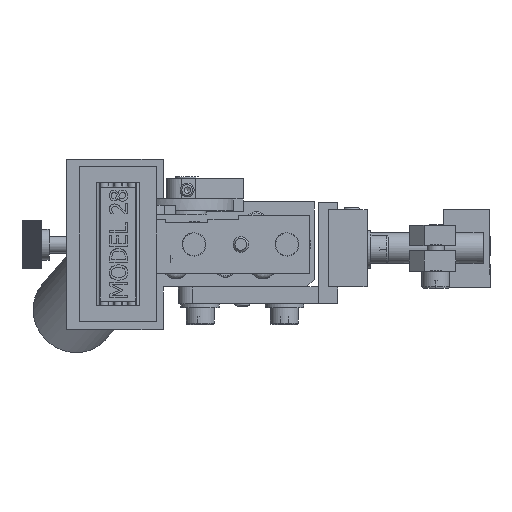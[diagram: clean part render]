
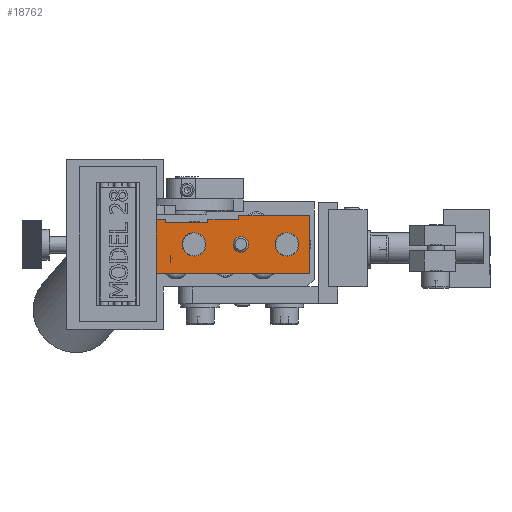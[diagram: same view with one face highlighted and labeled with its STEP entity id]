
A CAD part, front view. The second image highlights one B-rep face of the part: STEP entity #18762.
In plain terms, the highlighted planar face has unit normal (0, -1, 0).
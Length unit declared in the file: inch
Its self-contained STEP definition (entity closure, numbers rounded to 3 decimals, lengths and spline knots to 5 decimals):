
#16191=CARTESIAN_POINT('',(-0.82157,-5.91031,-0.143));
#16192=VERTEX_POINT('',#16191);
#16215=CARTESIAN_POINT('',(-0.82157,-5.91031,-0.579));
#16216=VERTEX_POINT('',#16215);
#16223=CARTESIAN_POINT('',(-0.82157,-5.91031,-0.143));
#16224=DIRECTION('',(0.0,0.0,-1.0));
#16225=VECTOR('',#16224,0.436);
#16226=LINE('',#16223,#16225);
#16227=EDGE_CURVE('',#16192,#16216,#16226,.T.);
#16315=CARTESIAN_POINT('',(-0.62483,-5.91031,-0.143));
#16316=VERTEX_POINT('',#16315);
#16317=CARTESIAN_POINT('',(-0.62483,-5.91031,-0.143));
#16318=DIRECTION('',(-1.0,0.0,0.0));
#16319=VECTOR('',#16318,0.19674);
#16320=LINE('',#16317,#16319);
#16321=EDGE_CURVE('',#16316,#16192,#16320,.T.);
#16346=CARTESIAN_POINT('',(0.34758,-5.91031,-0.25));
#16347=VERTEX_POINT('',#16346);
#16348=CARTESIAN_POINT('',(0.45318,-5.91031,-0.343));
#16349=VERTEX_POINT('',#16348);
#16350=CARTESIAN_POINT('',(0.35943,-5.91031,-0.343));
#16351=DIRECTION('',(0.0,1.0,0.0));
#16352=DIRECTION('',(-1.0,0.0,0.0));
#16353=AXIS2_PLACEMENT_3D('',#16350,#16351,#16352);
#16354=CIRCLE('',#16353,0.09375);
#16355=EDGE_CURVE('',#16347,#16349,#16354,.T.);
#16357=CARTESIAN_POINT('',(0.34758,-5.91031,-0.436));
#16358=VERTEX_POINT('',#16357);
#16366=CARTESIAN_POINT('',(0.35943,-5.91031,-0.343));
#16367=DIRECTION('',(0.0,1.0,0.0));
#16368=DIRECTION('',(-1.0,0.0,0.0));
#16369=AXIS2_PLACEMENT_3D('',#16366,#16367,#16368);
#16370=CIRCLE('',#16369,0.09375);
#16371=EDGE_CURVE('',#16349,#16358,#16370,.T.);
#16391=CARTESIAN_POINT('',(0.54143,-5.91031,-0.579));
#16392=VERTEX_POINT('',#16391);
#16399=CARTESIAN_POINT('',(-0.82157,-5.91031,-0.579));
#16400=DIRECTION('',(1.0,0.0,0.0));
#16401=VECTOR('',#16400,1.363);
#16402=LINE('',#16399,#16401);
#16403=EDGE_CURVE('',#16216,#16392,#16402,.T.);
#17701=CARTESIAN_POINT('',(-0.40242,-5.91031,-0.436));
#17702=VERTEX_POINT('',#17701);
#17751=CARTESIAN_POINT('',(-0.40242,-5.91031,-0.25));
#17752=VERTEX_POINT('',#17751);
#17759=CARTESIAN_POINT('',(-0.48882,-5.91031,-0.343));
#17760=VERTEX_POINT('',#17759);
#17761=CARTESIAN_POINT('',(-0.39557,-5.91031,-0.343));
#17762=DIRECTION('',(0.0,1.0,0.0));
#17763=DIRECTION('',(-1.0,0.0,0.0));
#17764=AXIS2_PLACEMENT_3D('',#17761,#17762,#17763);
#17765=CIRCLE('',#17764,0.09325);
#17766=EDGE_CURVE('',#17760,#17752,#17765,.T.);
#17768=CARTESIAN_POINT('',(-0.39557,-5.91031,-0.343));
#17769=DIRECTION('',(0.0,1.0,0.0));
#17770=DIRECTION('',(-1.0,0.0,0.0));
#17771=AXIS2_PLACEMENT_3D('',#17768,#17769,#17770);
#17772=CIRCLE('',#17771,0.09325);
#17773=EDGE_CURVE('',#17702,#17760,#17772,.T.);
#17793=CARTESIAN_POINT('',(-0.62483,-5.91031,-0.168));
#17794=VERTEX_POINT('',#17793);
#17801=CARTESIAN_POINT('',(-0.28183,-5.91031,-0.168));
#17802=VERTEX_POINT('',#17801);
#17803=CARTESIAN_POINT('',(-0.28183,-5.91031,-0.168));
#17804=DIRECTION('',(-1.0,0.0,0.0));
#17805=VECTOR('',#17804,0.343);
#17806=LINE('',#17803,#17805);
#17807=EDGE_CURVE('',#17802,#17794,#17806,.T.);
#17832=CARTESIAN_POINT('',(-0.28183,-5.91031,-0.14286));
#17833=VERTEX_POINT('',#17832);
#17834=CARTESIAN_POINT('',(-0.28183,-5.91031,-0.14286));
#17835=DIRECTION('',(0.0,0.0,-1.0));
#17836=VECTOR('',#17835,0.02514);
#17837=LINE('',#17834,#17836);
#17838=EDGE_CURVE('',#17833,#17802,#17837,.T.);
#17863=CARTESIAN_POINT('',(-0.03157,-5.91031,-0.14286));
#17864=VERTEX_POINT('',#17863);
#17865=CARTESIAN_POINT('',(-0.03157,-5.91031,-0.14286));
#17866=DIRECTION('',(-1.0,0.0,0.0));
#17867=VECTOR('',#17866,0.25026);
#17868=LINE('',#17865,#17867);
#17869=EDGE_CURVE('',#17864,#17833,#17868,.T.);
#17894=CARTESIAN_POINT('',(-0.03157,-5.91031,-0.106));
#17895=VERTEX_POINT('',#17894);
#17896=CARTESIAN_POINT('',(-0.03157,-5.91031,-0.106));
#17897=DIRECTION('',(0.0,0.0,-1.0));
#17898=VECTOR('',#17897,0.03686);
#17899=LINE('',#17896,#17898);
#17900=EDGE_CURVE('',#17895,#17864,#17899,.T.);
#17923=CARTESIAN_POINT('',(-0.62483,-5.91031,-0.168));
#17924=DIRECTION('',(0.0,0.0,1.0));
#17925=VECTOR('',#17924,0.025);
#17926=LINE('',#17923,#17925);
#17927=EDGE_CURVE('',#17794,#16316,#17926,.T.);
#17939=CARTESIAN_POINT('',(0.54143,-5.91031,-0.106));
#17940=VERTEX_POINT('',#17939);
#17941=CARTESIAN_POINT('',(0.54143,-5.91031,-0.106));
#17942=DIRECTION('',(-1.0,0.0,0.0));
#17943=VECTOR('',#17942,0.573);
#17944=LINE('',#17941,#17943);
#17945=EDGE_CURVE('',#17940,#17895,#17944,.T.);
#18436=CARTESIAN_POINT('',(0.54143,-5.91031,-0.579));
#18437=DIRECTION('',(0.0,0.0,1.0));
#18438=VECTOR('',#18437,0.473);
#18439=LINE('',#18436,#18438);
#18440=EDGE_CURVE('',#16392,#17940,#18439,.T.);
#18523=CARTESIAN_POINT('',(-0.29682,-5.91031,-0.343));
#18524=VERTEX_POINT('',#18523);
#18525=CARTESIAN_POINT('',(-0.39057,-5.91031,-0.343));
#18526=DIRECTION('',(0.0,1.0,0.0));
#18527=DIRECTION('',(-1.0,0.0,0.0));
#18528=AXIS2_PLACEMENT_3D('',#18525,#18526,#18527);
#18529=CIRCLE('',#18528,0.09375);
#18530=EDGE_CURVE('',#18524,#17702,#18529,.T.);
#18532=CARTESIAN_POINT('',(-0.39057,-5.91031,-0.343));
#18533=DIRECTION('',(0.0,1.0,0.0));
#18534=DIRECTION('',(-1.0,0.0,0.0));
#18535=AXIS2_PLACEMENT_3D('',#18532,#18533,#18534);
#18536=CIRCLE('',#18535,0.09375);
#18537=EDGE_CURVE('',#17752,#18524,#18536,.T.);
#18689=CARTESIAN_POINT('',(0.26118,-5.91031,-0.343));
#18690=VERTEX_POINT('',#18689);
#18691=CARTESIAN_POINT('',(0.35443,-5.91031,-0.343));
#18692=DIRECTION('',(0.0,1.0,0.0));
#18693=DIRECTION('',(-1.0,0.0,0.0));
#18694=AXIS2_PLACEMENT_3D('',#18691,#18692,#18693);
#18695=CIRCLE('',#18694,0.09325);
#18696=EDGE_CURVE('',#18690,#16347,#18695,.T.);
#18698=CARTESIAN_POINT('',(0.35443,-5.91031,-0.343));
#18699=DIRECTION('',(0.0,1.0,0.0));
#18700=DIRECTION('',(-1.0,0.0,0.0));
#18701=AXIS2_PLACEMENT_3D('',#18698,#18699,#18700);
#18702=CIRCLE('',#18701,0.09325);
#18703=EDGE_CURVE('',#16358,#18690,#18702,.T.);
#18722=CARTESIAN_POINT('',(0.54143,-5.91031,-0.579));
#18723=DIRECTION('',(0.0,-1.0,0.0));
#18724=DIRECTION('',(0.0,0.0,-1.0));
#18725=AXIS2_PLACEMENT_3D('',#18722,#18723,#18724);
#18726=PLANE('',#18725);
#18727=ORIENTED_EDGE('',*,*,#16227,.T.);
#18728=ORIENTED_EDGE('',*,*,#16403,.T.);
#18729=ORIENTED_EDGE('',*,*,#18440,.T.);
#18730=ORIENTED_EDGE('',*,*,#17945,.T.);
#18731=ORIENTED_EDGE('',*,*,#17900,.T.);
#18732=ORIENTED_EDGE('',*,*,#17869,.T.);
#18733=ORIENTED_EDGE('',*,*,#17838,.T.);
#18734=ORIENTED_EDGE('',*,*,#17807,.T.);
#18735=ORIENTED_EDGE('',*,*,#17927,.T.);
#18736=ORIENTED_EDGE('',*,*,#16321,.T.);
#18737=EDGE_LOOP('',(#18727,#18728,#18729,#18730,#18731,#18732,#18733,#18734,#18735,#18736));
#18738=FACE_OUTER_BOUND('',#18737,.T.);
#18739=CARTESIAN_POINT('',(-0.01557,-5.91031,-0.2805));
#18740=VERTEX_POINT('',#18739);
#18741=CARTESIAN_POINT('',(-0.01557,-5.91031,-0.343));
#18742=DIRECTION('',(0.0,1.0,0.0));
#18743=DIRECTION('',(0.0,0.0,-1.0));
#18744=AXIS2_PLACEMENT_3D('',#18741,#18742,#18743);
#18745=CIRCLE('',#18744,0.0625);
#18746=EDGE_CURVE('',#18740,#18740,#18745,.T.);
#18747=ORIENTED_EDGE('',*,*,#18746,.T.);
#18748=EDGE_LOOP('',(#18747));
#18749=FACE_BOUND('',#18748,.T.);
#18750=ORIENTED_EDGE('',*,*,#16355,.T.);
#18751=ORIENTED_EDGE('',*,*,#16371,.T.);
#18752=ORIENTED_EDGE('',*,*,#18703,.T.);
#18753=ORIENTED_EDGE('',*,*,#18696,.T.);
#18754=EDGE_LOOP('',(#18750,#18751,#18752,#18753));
#18755=FACE_BOUND('',#18754,.T.);
#18756=ORIENTED_EDGE('',*,*,#18530,.T.);
#18757=ORIENTED_EDGE('',*,*,#17773,.T.);
#18758=ORIENTED_EDGE('',*,*,#17766,.T.);
#18759=ORIENTED_EDGE('',*,*,#18537,.T.);
#18760=EDGE_LOOP('',(#18756,#18757,#18758,#18759));
#18761=FACE_BOUND('',#18760,.T.);
#18762=ADVANCED_FACE('',(#18738,#18749,#18755,#18761),#18726,.T.);
